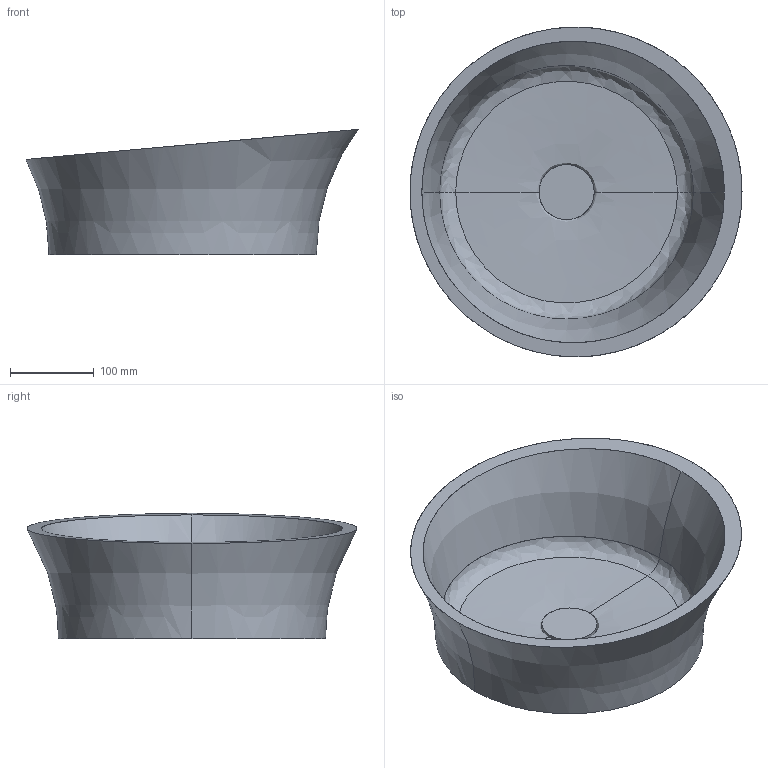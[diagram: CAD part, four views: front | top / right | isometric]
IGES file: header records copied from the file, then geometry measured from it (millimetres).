
Global section: file name: \\Archi-NAS\Comune\X GIOVANNI\LAVABI\DA APPOGGIO\EVOQUE\3D\EVOQUE.igs; native system: Rhinoceros ( Feb 23 2021 ); preprocessor: Trout Lake IGES 012 Feb 23 2021; date: 230525.121448; units: millimetre
Bounding box: 397.51 x 394.74 x 150 mm (x, y, z)
Surface area: 448875.6 mm2 (no closed solid volume)
Topology: 0 solids, 0 shells, 20 faces, 369 edges, 368 vertices
Faces by surface type: bspline 20
